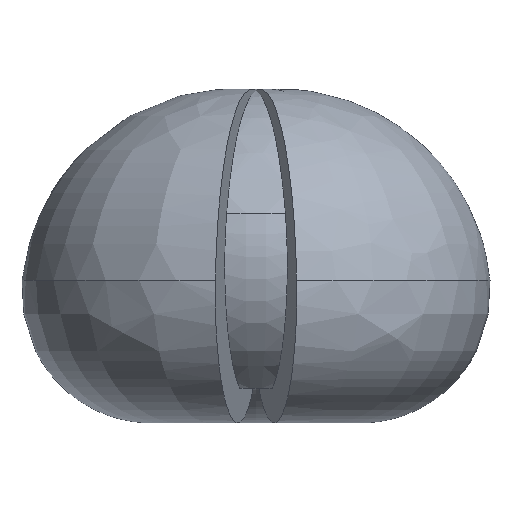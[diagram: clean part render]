
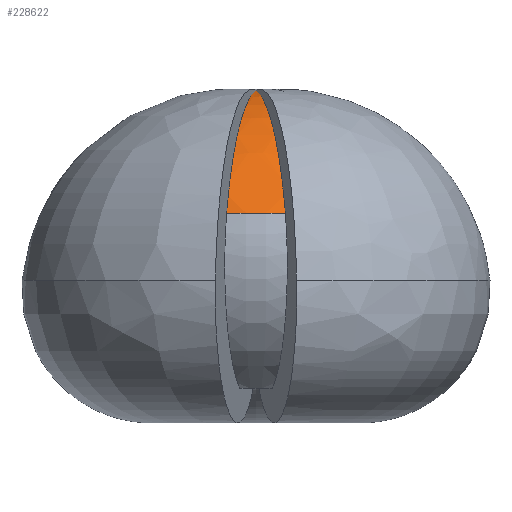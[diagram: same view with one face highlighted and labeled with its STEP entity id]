
A CAD part, left-side view. The second image highlights one B-rep face of the part: STEP entity #228622.
In plain terms, the highlighted free-form (B-spline) face has degree [3, 3] with [7, 4] control points.
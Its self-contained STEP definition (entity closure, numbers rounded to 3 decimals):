
#7342 = CARTESIAN_POINT ( 'NONE',  ( 0., 0., 3918.321 ) ) ;
#9607 = CARTESIAN_POINT ( 'NONE',  ( -2014.975, -117.226, 2957.866 ) ) ;
#11989 = CIRCLE ( 'NONE', #48341, 2525.163 ) ;
#14106 = CARTESIAN_POINT ( 'NONE',  ( -165.599, -29.2, 3899.58 ) ) ;
#17834 = VERTEX_POINT ( 'NONE', #29762 ) ;
#29762 = CARTESIAN_POINT ( 'NONE',  ( 0., 0., 3918.321 ) ) ;
#35455 = CARTESIAN_POINT ( 'NONE',  ( -2337.263, 412.122, 2420.611 ) ) ;
#41738 = CARTESIAN_POINT ( 'NONE',  ( -608.751, -35.416, 3814.844 ) ) ;
#47923 = CARTESIAN_POINT ( 'NONE',  ( -2486.8, 438.49, 2085.747 ) ) ;
#48341 = AXIS2_PLACEMENT_3D ( 'NONE', #219031, #358753, #145825 ) ;
#48548 = CARTESIAN_POINT ( 'NONE',  ( -2385.46, -138.78, 2420.611 ) ) ;
#57514 = ORIENTED_EDGE ( 'NONE', *, *, #311746, .F. ) ;
#69878 = CARTESIAN_POINT ( 'NONE',  ( 0., 0., 3918.321 ) ) ;
#91375 = EDGE_LOOP ( 'NONE', ( #348662, #109775, #57514 ) ) ;
#109775 = ORIENTED_EDGE ( 'NONE', *, *, #411979, .T. ) ;
#145825 = DIRECTION ( 'NONE',  ( -1., 0., 0. ) ) ;
#147157 = CARTESIAN_POINT ( 'NONE',  ( -165.599, 29.2, 3899.58 ) ) ;
#149427 = CARTESIAN_POINT ( 'NONE',  ( -608.751, 35.416, 3814.844 ) ) ;
#151709 = CARTESIAN_POINT ( 'NONE',  ( -169.014, -9.833, 3899.58 ) ) ;
#153938 = CARTESIAN_POINT ( 'NONE',  ( -1974.263, 348.116, 2957.866 ) ) ;
#156184 = CARTESIAN_POINT ( 'NONE',  ( -2337.263, -412.122, 2420.611 ) ) ;
#167955 = CARTESIAN_POINT ( 'NONE',  ( -596.452, -105.171, 3814.844 ) ) ;
#179820 = CARTESIAN_POINT ( 'NONE',  ( -165.599, 29.2, 3899.58 ) ) ;
#183847 = CARTESIAN_POINT ( 'NONE',  ( -2014.975, 117.226, 2957.866 ) ) ;
#184322 = CARTESIAN_POINT ( 'NONE',  ( -2486.8, 438.49, 2085.747 ) ) ;
#186086 = CARTESIAN_POINT ( 'NONE',  ( -2486.8, 438.49, 2085.747 ) ) ;
#188358 = CARTESIAN_POINT ( 'NONE',  ( -1255.392, -221.359, 3530.053 ) ) ;
#204001 = B_SPLINE_CURVE_WITH_KNOTS ( 'NONE', 3,
 ( #245804, #348814, #167955, #417537, #415296, #378694, #270995 ),
 .UNSPECIFIED., .F., .F.,
 ( 4, 1, 1, 1, 4 ),
 ( 0.605, 0.667, 0.767, 0.867, 1. ),
 .UNSPECIFIED. ) ;
#215934 = CARTESIAN_POINT ( 'NONE',  ( -1281.28, -74.541, 3530.053 ) ) ;
#219031 = CARTESIAN_POINT ( 'NONE',  ( 0., 0., 2085.747 ) ) ;
#222696 = CARTESIAN_POINT ( 'NONE',  ( -2486.8, -438.49, 2085.747 ) ) ;
#224985 = CARTESIAN_POINT ( 'NONE',  ( 0., 0., 3918.321 ) ) ;
#228622 = ADVANCED_FACE ( 'NONE', ( #362366 ), #267168, .T. ) ;
#245804 = CARTESIAN_POINT ( 'NONE',  ( 0., 0., 3918.321 ) ) ;
#252595 = CARTESIAN_POINT ( 'NONE',  ( -2538.082, -147.659, 2085.747 ) ) ;
#254603 = VERTEX_POINT ( 'NONE', #421540 ) ;
#257011 = CARTESIAN_POINT ( 'NONE',  ( -1974.263, -348.116, 2957.866 ) ) ;
#267168 =( BOUNDED_SURFACE ( )  B_SPLINE_SURFACE ( 3, 3, ( 
 ( #222696, #252595, #323484, #186086 ),
 ( #156184, #48548, #431115, #286798 ),
 ( #257011, #9607, #183847, #153938 ),
 ( #188358, #215934, #435611, #364643 ),
 ( #426640, #41738, #149427, #327977 ),
 ( #14106, #151709, #291330, #147157 ),
 ( #224985, #357894, #7342, #396776 ) ),
 .UNSPECIFIED., .F., .F., .F. ) 
 B_SPLINE_SURFACE_WITH_KNOTS ( ( 4, 1, 1, 1, 4 ),
 ( 4, 4 ),
 ( 0.605, 0.739, 0.839, 0.939, 1. ),
 ( 0., 1. ),
 .UNSPECIFIED. ) 
 GEOMETRIC_REPRESENTATION_ITEM ( )  RATIONAL_B_SPLINE_SURFACE ( (
 ( 1., 0.99, 0.99, 1.),
 ( 1., 0.99, 0.99, 1.),
 ( 1., 0.99, 0.99, 1.),
 ( 1., 0.99, 0.99, 1.),
 ( 1., 0.99, 0.99, 1.),
 ( 1., 0.99, 0.99, 1.),
 ( 1., 0.99, 0.99, 1.) ) ) 
 REPRESENTATION_ITEM ( '' )  SURFACE ( )  );
#270995 = CARTESIAN_POINT ( 'NONE',  ( -2486.8, -438.49, 2085.747 ) ) ;
#282781 = CARTESIAN_POINT ( 'NONE',  ( -1255.392, 221.359, 3530.053 ) ) ;
#286798 = CARTESIAN_POINT ( 'NONE',  ( -2337.263, 412.122, 2420.611 ) ) ;
#291330 = CARTESIAN_POINT ( 'NONE',  ( -169.014, 9.833, 3899.58 ) ) ;
#302344 = EDGE_CURVE ( 'NONE', #17834, #254603, #204001, .T. ) ;
#311746 = EDGE_CURVE ( 'NONE', #254603, #339666, #11989, .T. ) ;
#323484 = CARTESIAN_POINT ( 'NONE',  ( -2538.082, 147.659, 2085.747 ) ) ;
#327977 = CARTESIAN_POINT ( 'NONE',  ( -596.452, 105.171, 3814.844 ) ) ;
#339666 = VERTEX_POINT ( 'NONE', #47923 ) ;
#348662 = ORIENTED_EDGE ( 'NONE', *, *, #302344, .F. ) ;
#348814 = CARTESIAN_POINT ( 'NONE',  ( -165.599, -29.2, 3899.58 ) ) ;
#349374 = CARTESIAN_POINT ( 'NONE',  ( -1974.263, 348.116, 2957.866 ) ) ;
#357894 = CARTESIAN_POINT ( 'NONE',  ( 0., 0., 3918.321 ) ) ;
#358753 = DIRECTION ( 'NONE',  ( 0., 0., -1. ) ) ;
#361246 = B_SPLINE_CURVE_WITH_KNOTS ( 'NONE', 3,
 ( #69878, #179820, #422613, #282781, #349374, #35455, #184322 ),
 .UNSPECIFIED., .F., .F.,
 ( 4, 1, 1, 1, 4 ),
 ( 0.605, 0.667, 0.767, 0.867, 1. ),
 .UNSPECIFIED. ) ;
#362366 = FACE_OUTER_BOUND ( 'NONE', #91375, .T. ) ;
#364643 = CARTESIAN_POINT ( 'NONE',  ( -1255.392, 221.359, 3530.053 ) ) ;
#378694 = CARTESIAN_POINT ( 'NONE',  ( -2337.263, -412.122, 2420.611 ) ) ;
#396776 = CARTESIAN_POINT ( 'NONE',  ( 0., 0., 3918.321 ) ) ;
#411979 = EDGE_CURVE ( 'NONE', #17834, #339666, #361246, .T. ) ;
#415296 = CARTESIAN_POINT ( 'NONE',  ( -1974.263, -348.116, 2957.866 ) ) ;
#417537 = CARTESIAN_POINT ( 'NONE',  ( -1255.392, -221.359, 3530.053 ) ) ;
#421540 = CARTESIAN_POINT ( 'NONE',  ( -2486.8, -438.49, 2085.747 ) ) ;
#422613 = CARTESIAN_POINT ( 'NONE',  ( -596.452, 105.171, 3814.844 ) ) ;
#426640 = CARTESIAN_POINT ( 'NONE',  ( -596.452, -105.171, 3814.844 ) ) ;
#431115 = CARTESIAN_POINT ( 'NONE',  ( -2385.46, 138.78, 2420.611 ) ) ;
#435611 = CARTESIAN_POINT ( 'NONE',  ( -1281.28, 74.541, 3530.053 ) ) ;
